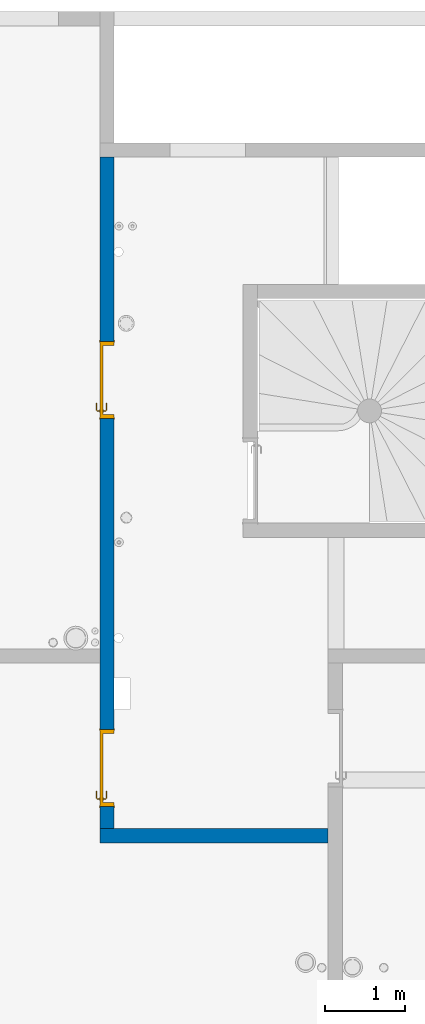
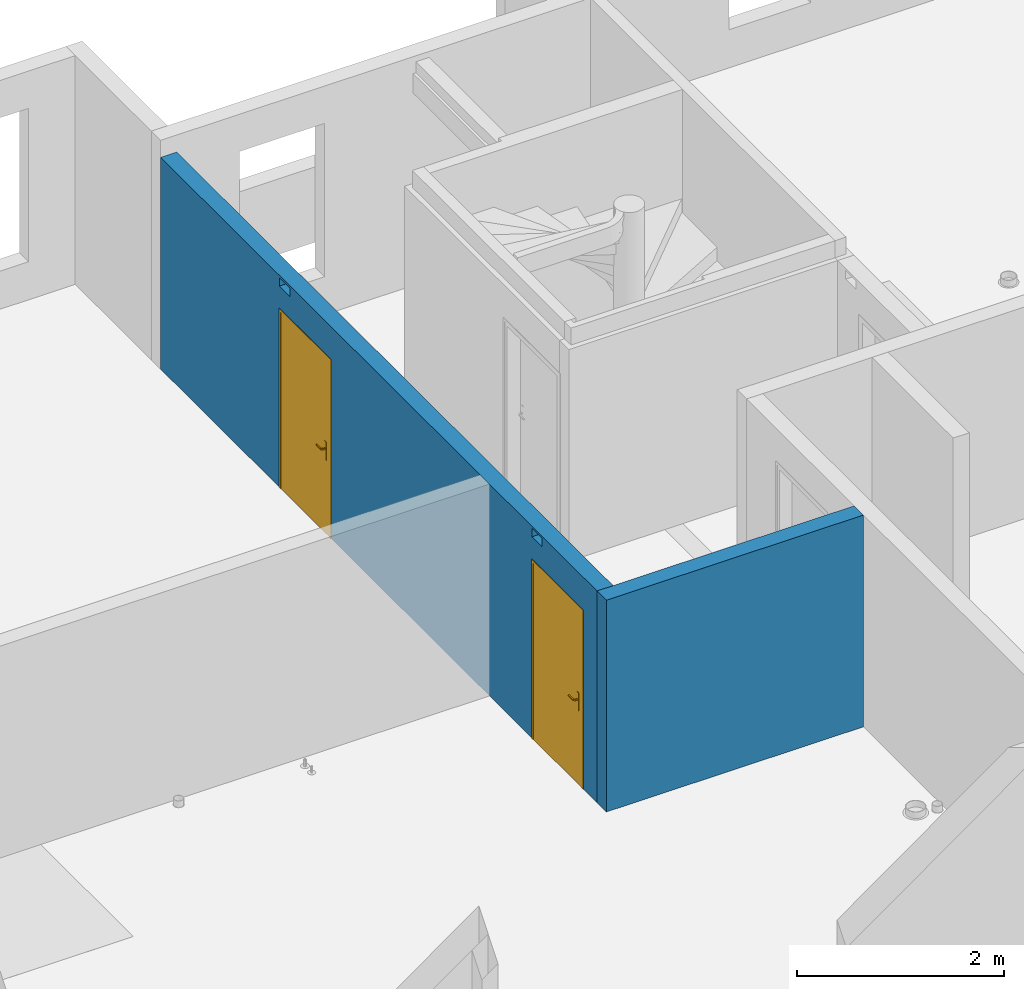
# One storey, part 14 of 30: 2 doors, 2 walls, 4 openings.
"""IFC2X3 building model written with IfcOpenShell, lengths in centimetres."""

from ifc_helpers import new_model, entity, si_unit, converted_unit, derived_unit, direction, frame, frame_2d, origin, place, context, subcontext, project, spatial, rectangle, extrude, faceted_brep, source, transform, mapped, material, material_list, layer, layer_set, layer_usage, type_object, type_shapes, element, fill, save


model = new_model("IFC2X3")

# Units and contexts
model_context = context("Model", 3, precision=0.001, world=origin(), true_north=direction((6.12303176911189e-17, 1.0)))
body_context = subcontext(model_context, "Body", "Model", "MODEL_VIEW")
ifc_project = project(units=[si_unit("LENGTHUNIT", "METRE", prefix="CENTI"), si_unit("AREAUNIT", "SQUARE_METRE"), si_unit("VOLUMEUNIT", "CUBIC_METRE"), converted_unit("PLANEANGLEUNIT", "DEGREE", entity("IfcRatioMeasure", 0.0174532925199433), si_unit("PLANEANGLEUNIT", "RADIAN"), dimensions=[0, 0, 0, 0, 0, 0, 0]), si_unit("MASSUNIT", "GRAM", prefix="KILO"), derived_unit("MASSDENSITYUNIT", [(si_unit("MASSUNIT", "GRAM", prefix="KILO"), 1), (si_unit("LENGTHUNIT", "METRE"), -3)]), si_unit("TIMEUNIT", "SECOND"), si_unit("FREQUENCYUNIT", "HERTZ"), si_unit("THERMODYNAMICTEMPERATUREUNIT", "DEGREE_CELSIUS"), derived_unit("THERMALTRANSMITTANCEUNIT", [(si_unit("MASSUNIT", "GRAM", prefix="KILO"), 1), (si_unit("THERMODYNAMICTEMPERATUREUNIT", "KELVIN"), -1), (si_unit("TIMEUNIT", "SECOND"), -3)]), derived_unit("VOLUMETRICFLOWRATEUNIT", [(si_unit("LENGTHUNIT", "METRE"), 3), (si_unit("TIMEUNIT", "SECOND"), -1)]), si_unit("ELECTRICCURRENTUNIT", "AMPERE"), si_unit("ELECTRICVOLTAGEUNIT", "VOLT"), si_unit("POWERUNIT", "WATT"), si_unit("FORCEUNIT", "NEWTON"), si_unit("ILLUMINANCEUNIT", "LUX"), si_unit("LUMINOUSFLUXUNIT", "LUMEN"), si_unit("LUMINOUSINTENSITYUNIT", "CANDELA"), derived_unit("USERDEFINED", [(si_unit("MASSUNIT", "GRAM", prefix="KILO"), -1), (si_unit("LENGTHUNIT", "METRE"), -2), (si_unit("TIMEUNIT", "SECOND"), 3), (si_unit("LUMINOUSFLUXUNIT", "LUMEN"), 1)]), derived_unit("LINEARVELOCITYUNIT", [(si_unit("LENGTHUNIT", "METRE"), 1), (si_unit("TIMEUNIT", "SECOND"), -1)]), si_unit("PRESSUREUNIT", "PASCAL"), derived_unit("USERDEFINED", [(si_unit("LENGTHUNIT", "METRE"), -2), (si_unit("MASSUNIT", "GRAM", prefix="KILO"), 1), (si_unit("TIMEUNIT", "SECOND"), -2)])], contexts=[model_context])

# Site, building, storey
site_placement = place(None, origin())
site = spatial("IfcSite", under=ifc_project, at=site_placement, Name="Default", CompositionType="ELEMENT")
building_placement = place(site_placement, origin())
building = spatial("IfcBuilding", under=site, at=building_placement, Name="CAGE 03", CompositionType="ELEMENT")
storey_placement = place(building_placement, frame((0.0, 0.0, 610.0)))
storey = spatial("IfcBuildingStorey", under=building, at=storey_placement, Name="R+2", CompositionType="ELEMENT", Elevation=610.0)

# Wall
ifc_material_1 = material(Name="Béton, C25/30")
ifc_layer = layer(ifc_material_1, 18.0)
ifc_layer_set = layer_set([ifc_layer], Name="Mur de base:Voile BA 18")
ifc_layer_usage_1 = layer_usage(ifc_layer_set, "AXIS2", "POSITIVE", -9.0)
wall_type = type_object("IfcWallType", Name="Mur de base:Voile BA 18", PredefinedType="STANDARD", material=ifc_layer_set)
wall_1_placement = place(storey_placement, frame((10297.3658201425, 4257.66066607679, 0.0), z_axis=(0.0, 0.0, 1.0), x_axis=(-1.0, 0.0, 0.0)))
element("IfcWallStandardCase", 1, at=wall_1_placement, inside=storey, type_object=wall_type, material=ifc_layer_usage_1, Name="Mur de base:Voile BA 18", ObjectType="Mur de base:Voile BA 18", context=body_context, shape_type="SweptSolid", body=[
    extrude(rectangle(XDim=287.000000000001, YDim=17.9999999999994, at=frame_2d((143.5, -1.60760293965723e-13), x_axis=(-1.0, 0.0))), origin(), (0.0, 0.0, 1.0), 250.0),
])

# Wall, openings, doors
ifc_layer_usage_2 = layer_usage(ifc_layer_set, "AXIS2", "POSITIVE", -9.0)
wall_2_placement = place(storey_placement, frame((10019.3658201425, 4266.66066607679, 0.0), z_axis=(0.0, 0.0, 1.0), x_axis=(0.0, 1.0, 0.0)))
wall_2 = element("IfcWallStandardCase", 2, at=wall_2_placement, inside=storey, type_object=wall_type, material=ifc_layer_usage_2, Name="Mur de base:Voile BA 18", ObjectType="Mur de base:Voile BA 18", context=body_context, shape_type="SweptSolid", body=[
    extrude(rectangle(XDim=844.0, YDim=17.9999999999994, at=frame_2d((422.0, 2.1316282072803e-14), x_axis=(-1.0, 0.0))), origin(), (0.0, 0.0, 1.0), 250.0),
])
opening_1_placement = place(wall_2_placement, origin())
element("IfcOpeningElement", 3, at=opening_1_placement, cuts=wall_2, Name="Mur de base:Voile BA 18", ObjectType="Opening", context=body_context, shape_type="SweptSolid", body=[
    extrude(rectangle(XDim=10.0, YDim=19.9999999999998, at=frame_2d((5.41788836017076e-14, 4.33431068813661e-13), x_axis=(1.0, 0.0))), frame((604.0, -9.0, 242.5), z_axis=(0.0, 1.0, 0.0), x_axis=(0.0, 0.0, -1.0)), (0.0, 0.0, 1.0), 17.9999999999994),
])
opening_2_placement = place(wall_2_placement, origin())
element("IfcOpeningElement", 4, at=opening_2_placement, cuts=wall_2, Name="Mur de base:Voile BA 18", ObjectType="Opening", context=body_context, shape_type="SweptSolid", body=[
    extrude(rectangle(XDim=10.0, YDim=19.9999999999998, at=frame_2d((5.41788836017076e-14, -4.33431068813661e-13), x_axis=(1.0, 0.0))), frame((116.0, -9.0, 242.5), z_axis=(0.0, 1.0, 0.0), x_axis=(0.0, 0.0, -1.0)), (0.0, 0.0, 1.0), 17.9999999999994),
])
opening_3_placement = place(wall_2_placement, frame((515.499999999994, -9.0, 0.0)))
opening_3 = element("IfcOpeningElement", 5, at=opening_3_placement, cuts=wall_2, Name="Int. Simple:HB93:1", ObjectType="Opening", context=body_context, shape_type="SweptSolid", body=[
    extrude(rectangle(XDim=210.000000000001, YDim=96.9999999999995, at=frame_2d((105.000000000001, 48.4999999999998), x_axis=(1.0, 0.0))), frame((0.0, 0.0, 0.0), z_axis=(0.0, 1.0, 0.0), x_axis=(0.0, 0.0, 1.0)), (0.0, 0.0, 1.0), 18.0),
])
opening_4_placement = place(wall_2_placement, frame((27.4999999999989, -9.0, 0.0)))
opening_4 = element("IfcOpeningElement", 6, at=opening_4_placement, cuts=wall_2, Name="Int. Simple:HB93:1", ObjectType="Opening", context=body_context, shape_type="SweptSolid", body=[
    extrude(rectangle(XDim=210.000000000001, YDim=96.9999999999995, at=frame_2d((105.000000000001, 48.4999999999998), x_axis=(1.0, 0.0))), frame((0.0, 0.0, 0.0), z_axis=(0.0, 1.0, 0.0), x_axis=(0.0, 0.0, 1.0)), (0.0, 0.0, 1.0), 18.0),
])
ifc_material_2 = material(Name="Finition Peinture - Blanc satiné")
ifc_material_3 = material(Name="Bois - Panneau de porte")
ifc_material_4 = material(Name="Bois - Cadre de porte")
ifc_material_list_1 = material_list([ifc_material_2, ifc_material_3, ifc_material_4])
ifc_material_list_2 = material_list([ifc_material_2, ifc_material_3, ifc_material_4])
door_style = type_object("IfcDoorStyle", Name="HB93", ConstructionType="NOTDEFINED", OperationType="SINGLE_SWING_RIGHT", ParameterTakesPrecedence=False, Sizeable=False, material=ifc_material_list_2)
shared_shape = source(origin(), body_context, "Body", "Brep", [
    faceted_brep([(96.5000000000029, -0.500000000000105, 87.0), (96.5000000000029, -0.500000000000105, 108.0), (95.535276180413, -0.500000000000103, 108.399601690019), (94.5000000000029, -0.500000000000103, 108.535898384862), (93.4647238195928, -0.500000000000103, 108.399601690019), (92.5000000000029, -0.500000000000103, 108.0), (92.5000000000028, -0.500000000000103, 87.0), (93.4647238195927, -0.500000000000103, 86.6003983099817), (94.5000000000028, -0.500000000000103, 86.464101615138), (95.5352761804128, -0.500000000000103, 86.6003983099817), (96.5000000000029, 0.0, 108.0), (96.5000000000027, 0.0, 87.0), (95.5352761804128, 0.0, 86.6003983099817), (94.5000000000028, 0.0, 86.464101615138), (93.4647238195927, 0.0, 86.6003983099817), (92.5000000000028, 0.0, 87.0), (92.5000000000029, 0.0, 108.0), (93.4647238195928, 0.0, 108.399601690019), (94.5000000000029, 0.0, 108.535898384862), (95.535276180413, 0.0, 108.399601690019)], [[[0, 1, 2, 3, 4, 5, 6, 7, 8, 9]], [[10, 11, 12, 13, 14, 15, 16, 17, 18, 19]], [[9, 12, 11, 0]], [[8, 13, 12, 9]], [[7, 14, 13, 8]], [[7, 6, 15, 14]], [[15, 6, 5, 16]], [[4, 17, 16, 5]], [[3, 18, 17, 4]], [[2, 19, 18, 3]], [[2, 1, 10, 19]], [[11, 10, 1, 0]]]),
    faceted_brep([(96.5000000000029, 4.0, 87.0), (96.5000000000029, 4.0, 108.0), (95.535276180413, 4.0, 108.399601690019), (94.5000000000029, 4.0, 108.535898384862), (93.4647238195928, 4.0, 108.399601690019), (92.500000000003, 4.0, 108.0), (92.5000000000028, 4.0, 87.0), (93.4647238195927, 4.0, 86.6003983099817), (94.5000000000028, 4.0, 86.464101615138), (95.5352761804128, 4.0, 86.6003983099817), (94.5000000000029, 4.49999999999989, 108.535898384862), (95.535276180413, 4.49999999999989, 108.399601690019), (96.5000000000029, 4.49999999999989, 108.0), (96.5000000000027, 4.49999999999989, 87.0), (95.5352761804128, 4.49999999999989, 86.6003983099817), (94.5000000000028, 4.49999999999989, 86.464101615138), (93.4647238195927, 4.49999999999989, 86.6003983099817), (92.5000000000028, 4.4999999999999, 87.0), (92.5000000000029, 4.4999999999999, 108.0), (93.4647238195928, 4.49999999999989, 108.399601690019)], [[[0, 1, 2, 3, 4, 5, 6, 7, 8, 9]], [[10, 11, 12, 13, 14, 15, 16, 17, 18, 19]], [[4, 19, 18, 5]], [[3, 10, 19, 4]], [[2, 11, 10, 3]], [[2, 1, 12, 11]], [[13, 12, 1, 0]], [[9, 14, 13, 0]], [[8, 15, 14, 9]], [[7, 16, 15, 8]], [[7, 6, 17, 16]], [[17, 6, 5, 18]]]),
    faceted_brep([(94.2974701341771, -0.500000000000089, 100.778044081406), (94.7025298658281, -0.500000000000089, 100.778044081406), (95.100000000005, -0.500000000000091, 100.699999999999), (95.100000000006, -0.500000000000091, 99.2999999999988), (94.7025298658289, -0.500000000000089, 99.221955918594), (94.297470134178, -0.500000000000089, 99.2219559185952), (93.9000000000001, -0.500000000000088, 99.3000000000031), (93.9000000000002, -0.500000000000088, 100.7), (94.7025298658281, -3.10045754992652, 100.778044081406), (95.1000000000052, -3.26509507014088, 100.7), (94.2974701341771, -2.93267631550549, 100.778044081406), (92.9298602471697, -4.30028620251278, 100.778044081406), (93.0976414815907, -4.70534593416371, 100.778044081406), (93.9000000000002, -2.76803879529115, 100.7), (93.9000000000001, -2.76803879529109, 99.3000000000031), (94.297470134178, -2.93267631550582, 99.2219559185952), (94.7025298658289, -3.10045754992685, 99.221955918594), (93.0976414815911, -4.70534593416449, 99.221955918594), (92.9298602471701, -4.30028620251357, 99.2219559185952), (95.100000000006, -3.26509507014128, 99.2999999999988), (93.2622790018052, -5.1028160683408, 100.7), (92.7652227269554, -3.90281606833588, 100.7), (92.7652227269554, -3.90281606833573, 99.3000000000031), (93.2622790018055, -5.10281606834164, 99.2999999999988), (84.4981359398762, -5.10281606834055, 100.7), (84.4981359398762, -4.70534593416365, 100.778044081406), (84.4981359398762, -4.30028620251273, 100.778044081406), (84.4981359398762, -3.90281606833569, 100.699999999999), (84.4981359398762, -3.90281606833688, 99.3000000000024), (84.4981359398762, -4.30028620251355, 99.2219559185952), (84.4981359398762, -4.70534593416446, 99.221955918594), (84.4981359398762, -5.10281606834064, 99.2999999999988), (88.7139980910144, -4.5028160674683, 100.78786867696), (89.2692302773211, -5.1028160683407, 100.7), (88.6316793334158, -3.90281606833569, 100.7), (88.631679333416, -3.90281606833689, 99.3000000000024), (88.7139981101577, -4.50281607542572, 99.2121313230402), (89.2692310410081, -5.10281606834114, 99.2999999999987)], [[[0, 1, 2, 3, 4, 5, 6, 7]], [[2, 1, 8, 9]], [[1, 0, 10, 11, 12, 8]], [[0, 7, 13, 10]], [[14, 13, 7, 6]], [[5, 15, 14, 6]], [[5, 4, 16, 17, 18, 15]], [[3, 19, 16, 4]], [[9, 19, 3, 2]], [[9, 8, 12, 20]], [[10, 13, 21, 11]], [[22, 21, 13, 14]], [[14, 15, 18, 22]], [[16, 19, 23, 17]], [[20, 23, 19, 9]], [[24, 25, 26, 27, 28, 29, 30, 31]], [[32, 25, 33]], [[33, 25, 24]], [[33, 20, 12]], [[11, 34, 32]], [[34, 11, 21]], [[27, 26, 34]], [[32, 26, 25]], [[32, 34, 26]], [[32, 33, 12]], [[11, 32, 12]], [[21, 22, 35, 28, 27, 34]], [[36, 29, 35]], [[30, 36, 37]], [[18, 35, 22]], [[29, 28, 35]], [[30, 37, 31]], [[37, 17, 23]], [[36, 17, 37]], [[36, 18, 17]], [[36, 35, 18]], [[29, 36, 30]], [[23, 20, 33, 24, 31, 37]]]),
    faceted_brep([(94.2974701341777, 4.49999999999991, 99.2219559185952), (94.7025298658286, 4.49999999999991, 99.221955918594), (95.1000000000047, 4.49999999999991, 99.2999999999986), (95.1000000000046, 4.49999999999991, 100.7), (94.7025298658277, 4.49999999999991, 100.778044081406), (94.2974701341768, 4.49999999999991, 100.778044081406), (93.8999999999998, 4.49999999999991, 100.7), (93.900000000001, 4.49999999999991, 99.3000000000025), (93.8999999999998, 6.7485204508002, 100.7), (93.8999999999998, 6.74852045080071, 99.3000000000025), (94.2974701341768, 6.91315797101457, 100.778044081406), (94.7025298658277, 7.0809392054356, 100.778044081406), (93.0838906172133, 8.69957845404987, 100.778044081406), (92.9161093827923, 8.29451872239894, 100.778044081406), (95.1000000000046, 7.24557672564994, 100.7), (95.1000000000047, 7.24557672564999, 99.2999999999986), (94.7025298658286, 7.08093920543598, 99.221955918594), (94.2974701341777, 6.91315797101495, 99.2219559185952), (92.9161093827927, 8.29451872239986, 99.2219559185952), (93.0838906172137, 8.69957845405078, 99.221955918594), (92.751471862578, 7.89704858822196, 100.7), (92.7514718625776, 7.89704858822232, 99.3000000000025), (93.2485281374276, 9.09704858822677, 100.7), (93.2485281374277, 9.09704858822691, 99.2999999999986), (84.4954216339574, 8.29451872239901, 100.778044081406), (84.4954216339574, 8.69957845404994, 100.778044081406), (84.4954216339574, 9.09704858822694, 100.7), (84.4954216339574, 9.09704858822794, 99.2999999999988), (84.4954216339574, 8.6995784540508, 99.221955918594), (84.4954216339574, 8.29451872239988, 99.2219559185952), (84.4954216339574, 7.89704858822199, 99.3000000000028), (84.4954216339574, 7.89704858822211, 100.7), (88.6234467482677, 7.89704858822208, 100.7), (88.6234479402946, 7.89704858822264, 99.3000000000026), (88.7057655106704, 8.49704858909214, 100.78786867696), (89.255479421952, 9.09704858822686, 100.7), (89.2554795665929, 9.09704858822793, 99.2999999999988), (88.7057654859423, 8.49704858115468, 99.2121313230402)], [[[0, 1, 2, 3, 4, 5, 6, 7]], [[8, 9, 7, 6]], [[5, 10, 8, 6]], [[5, 4, 11, 12, 13, 10]], [[3, 14, 11, 4]], [[14, 3, 2, 15]], [[2, 1, 16, 15]], [[1, 0, 17, 18, 19, 16]], [[0, 7, 9, 17]], [[20, 21, 9, 8]], [[8, 10, 13, 20]], [[14, 22, 12, 11]], [[23, 22, 14, 15]], [[15, 16, 19, 23]], [[17, 9, 21, 18]], [[24, 25, 26, 27, 28, 29, 30, 31]], [[21, 20, 32, 31, 30, 33]], [[34, 24, 32]], [[25, 34, 35]], [[13, 32, 20]], [[24, 31, 32]], [[25, 35, 26]], [[35, 12, 22]], [[34, 12, 35]], [[34, 13, 12]], [[34, 32, 13]], [[24, 34, 25]], [[22, 23, 36, 27, 26, 35]], [[37, 28, 36]], [[36, 28, 27]], [[36, 23, 19]], [[18, 33, 37]], [[33, 18, 21]], [[30, 29, 33]], [[37, 29, 28]], [[37, 33, 29]], [[37, 36, 19]], [[18, 37, 19]]]),
    faceted_brep([(100.500000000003, 4.0, 206.5), (100.500000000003, 4.0, 0.0), (10.5000000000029, 4.0, 0.0), (10.5000000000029, 4.0, 206.5), (100.500000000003, 0.0, 206.5), (10.5000000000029, 0.0, 206.5), (10.5000000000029, 0.0, 0.0), (100.500000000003, 0.0, 0.0)], [[[0, 1, 2, 3]], [[4, 5, 6, 7]], [[3, 5, 4, 0]], [[2, 6, 5, 3]], [[1, 7, 6, 2]], [[0, 4, 7, 1]]]),
    faceted_brep([(104.0, 0.0, 0.0), (100.500000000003, 0.0, 0.0), (100.500000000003, 4.0, 0.0), (99.0, 4.0, 0.0), (99.0, 18.0, 0.0), (104.0, 18.0, 0.0), (104.0, 18.0, 210.0), (104.0, 0.0, 210.0), (99.0, 18.0, 205.0), (12.0, 18.0, 205.0), (12.0, 18.0, 0.0), (7.0, 18.0, 0.0), (7.0, 18.0, 210.0), (99.0, 4.0, 205.0), (100.500000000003, 4.0, 206.5), (10.5000000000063, 4.0, 206.5), (10.5000000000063, 4.0, 0.0), (12.0, 4.0, 0.0), (12.0, 4.0, 205.0), (100.500000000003, 0.0, 206.5), (7.0, 0.0, 210.0), (7.0, 0.0, 0.0), (10.5000000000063, 0.0, 0.0), (10.5000000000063, 0.0, 206.5)], [[[0, 1, 2, 3, 4, 5]], [[5, 6, 7, 0]], [[4, 8, 9, 10, 11, 12, 6, 5]], [[3, 13, 8, 4]], [[2, 14, 15, 16, 17, 18, 13, 3]], [[1, 19, 14, 2]], [[0, 7, 20, 21, 22, 23, 19, 1]], [[12, 11, 21, 20]], [[21, 11, 10, 17, 16, 22]], [[18, 17, 10, 9]], [[23, 22, 16, 15]], [[6, 12, 20, 7]], [[13, 18, 9, 8]], [[19, 23, 15, 14]]]),
    faceted_brep([(102.500000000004, 18.0, 0.0), (102.500000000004, 18.5000000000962, 0.0), (105.500000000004, 18.5000000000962, 0.0), (105.500000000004, 18.0, 0.0), (105.500000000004, 18.0, 211.500000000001), (5.50000000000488, 18.0, 211.500000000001), (5.50000000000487, 18.0, 0.0), (8.50000000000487, 18.0, 0.0), (8.50000000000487, 18.0, 208.500000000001), (102.500000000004, 18.0, 208.500000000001), (105.500000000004, 18.5000000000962, 211.500000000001), (102.500000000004, 18.5000000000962, 208.500000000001), (8.50000000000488, 18.5000000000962, 208.500000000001), (8.50000000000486, 18.5000000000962, 0.0), (5.50000000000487, 18.5000000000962, 0.0), (5.50000000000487, 18.5000000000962, 211.500000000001)], [[[0, 1, 2, 3]], [[3, 4, 5, 6, 7, 8, 9, 0]], [[2, 10, 4, 3]], [[1, 11, 12, 13, 14, 15, 10, 2]], [[0, 9, 11, 1]], [[7, 6, 14, 13]], [[8, 7, 13, 12]], [[15, 14, 6, 5]], [[10, 15, 5, 4]], [[9, 8, 12, 11]]]),
    faceted_brep([(105.500000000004, -0.5, 0.0), (105.500000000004, -0.5, 211.500000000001), (5.50000000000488, -0.5, 211.500000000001), (5.50000000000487, -0.5, 0.0), (8.50000000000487, -0.5, 0.0), (8.50000000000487, -0.5, 208.500000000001), (102.500000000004, -0.5, 208.500000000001), (102.500000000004, -0.5, 0.0), (105.500000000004, 0.0, 0.0), (105.500000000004, 0.0, 211.500000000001), (102.500000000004, 0.0, 0.0), (102.500000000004, 0.0, 208.500000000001), (8.50000000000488, 0.0, 208.500000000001), (8.50000000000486, 0.0, 0.0), (5.50000000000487, 0.0, 0.0), (5.50000000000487, 0.0, 211.500000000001)], [[[0, 1, 2, 3, 4, 5, 6, 7]], [[8, 9, 1, 0]], [[10, 11, 12, 13, 14, 15, 9, 8]], [[7, 6, 11, 10]], [[5, 4, 13, 12]], [[15, 14, 3, 2]], [[9, 15, 2, 1]], [[6, 5, 12, 11]], [[4, 3, 14, 13]], [[7, 10, 8, 0]]]),
])
type_shapes(door_style, [shared_shape])
door_1_placement = place(opening_3_placement, frame((104.0, 18.0, 0.0), z_axis=(0.0, 0.0, 1.0), x_axis=(-1.0, 0.0, 0.0)))
door_1 = element("IfcDoor", 7, at=door_1_placement, inside=storey, type_object=door_style, material=ifc_material_list_1, Name="Int. Simple:HB93", ObjectType="HB93", OverallHeight=210.000000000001, OverallWidth=96.9999999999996, context=body_context, shape_type="MappedRepresentation", body=[
    mapped(shared_shape, transform((0.0, 0.0, 0.0), scale=1.0)),
])
fill(opening_3, door_1)
ifc_material_list_3 = material_list([ifc_material_2, ifc_material_3, ifc_material_4])
door_2_placement = place(opening_4_placement, frame((104.0, 18.0, 0.0), z_axis=(0.0, 0.0, 1.0), x_axis=(-1.0, 0.0, 0.0)))
door_2 = element("IfcDoor", 8, at=door_2_placement, inside=storey, type_object=door_style, material=ifc_material_list_3, Name="Int. Simple:HB93", ObjectType="HB93", OverallHeight=210.000000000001, OverallWidth=96.9999999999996, context=body_context, shape_type="MappedRepresentation", body=[
    mapped(shared_shape, transform((0.0, 0.0, 0.0), scale=1.0)),
])
fill(opening_4, door_2)

save(model, "model.ifc")
